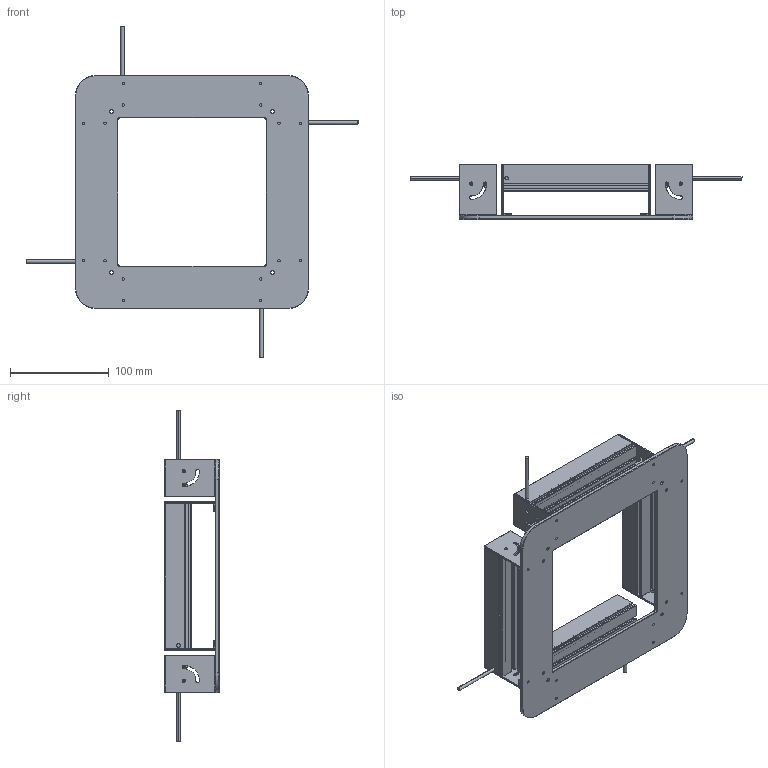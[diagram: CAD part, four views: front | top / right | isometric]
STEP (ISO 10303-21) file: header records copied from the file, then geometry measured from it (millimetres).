
FILE_DESCRIPTION (( 'STEP AP214' ), '1' );
FILE_NAME ('CST-ROS233.STEP', '2022-06-08T06:00:41', ( '' ), ( '' ), 'SwSTEP 2.0', 'SolidWorks 2018', '' );
FILE_SCHEMA (( 'AUTOMOTIVE_DESIGN' ));
Length unit declared in the file: millimetre
Products named in the file (2): CST-ROS233
Bounding box: 336 x 55.5 x 336 mm (x, y, z)
Surface area: 229087.3 mm2 (no closed solid volume)
Topology: 0 solids, 36 shells, 948 faces, 2450 edges, 1532 vertices
Faces by surface type: plane 563, cylinder 245, cone 140
Entity records: 40279 total; most frequent: CARTESIAN_POINT 6458, DIRECTION 4794, ORIENTED_EDGE 4704, EDGE_CURVE 2392, VECTOR 1714, LINE 1714, AXIS2_PLACEMENT_3D 1540, VERTEX_POINT 1524
